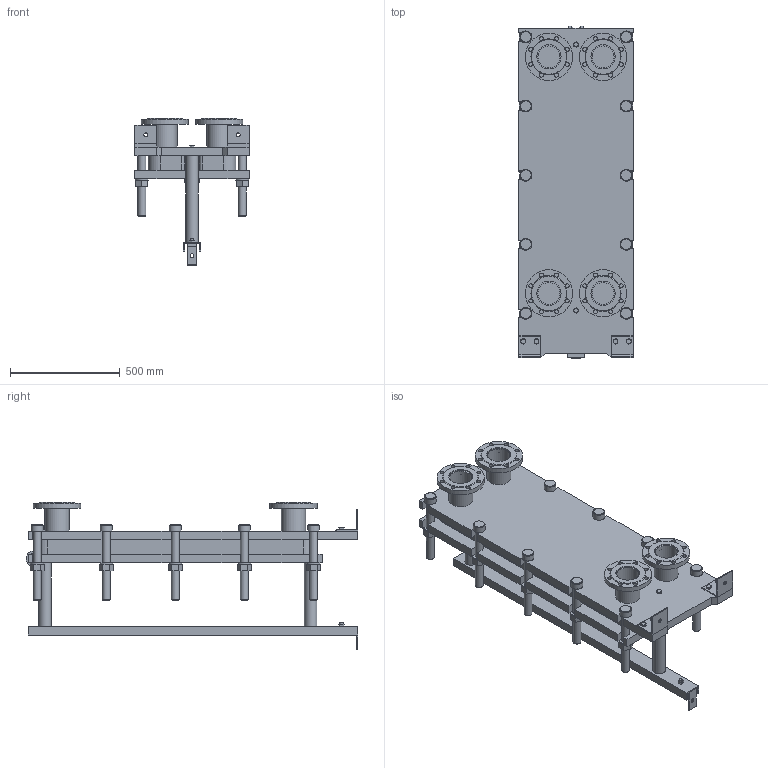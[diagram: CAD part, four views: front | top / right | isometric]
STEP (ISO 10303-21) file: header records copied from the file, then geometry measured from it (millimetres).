
FILE_DESCRIPTION(/* description */ (''),/* implementation_level */ '2;1');
FILE_NAME(/* name */ 'C:\Users\zhuro\Desktop\ENCO\TO\ЭН-04\ЭН-0,5-04-19-1.stp',/* time_stamp */ '2022-06-06T10:45:49+03:00',/* author */ ('zhuro'),/* organization */ (''),/* preprocessor_version */ 'ST-DEVELOPER v18.1',/* originating_system */ 'Autodesk Inventor 2022',/* authorisation */ '');
FILE_SCHEMA (('AUTOMOTIVE_DESIGN { 1 0 10303 214 3 1 1 }'));
Length unit declared in the file: millimetre
Products named in the file (1): ЭН-0,5-04-19-1
Bounding box: 520 x 1510 x 669.5 mm (x, y, z)
Volume: 99604500 mm3; surface area: 6574064.3 mm2
Topology: 45 solids, 45 shells, 668 faces, 1611 edges, 1048 vertices
Faces by surface type: plane 457, cylinder 166, cone 39, torus 6
Full cylindrical faces by diameter (mm): 8 x4, 10 x2, 16 x8, 18 x35, 36 x25, 40 x2, 42 x1, 45 x4, 54 x10, 57 x2, 60 x10, 68 x2, 100 x4, 110 x8, 215 x4
Entity records: 23607 total; most frequent: CARTESIAN_POINT 7348, DIRECTION 3371, ORIENTED_EDGE 3142, EDGE_CURVE 1571, AXIS2_PLACEMENT_3D 1199, VERTEX_POINT 1044, LINE 973, VECTOR 973
